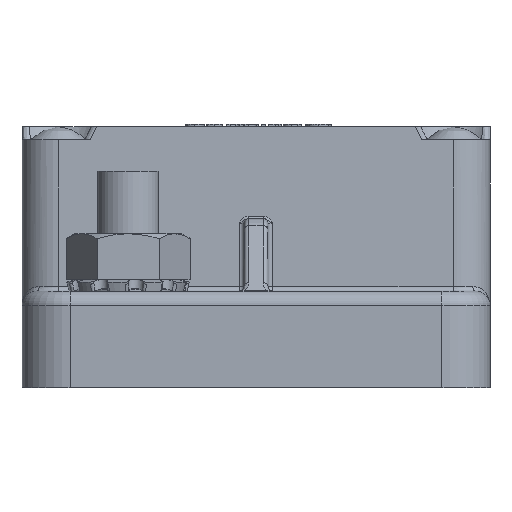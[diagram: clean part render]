
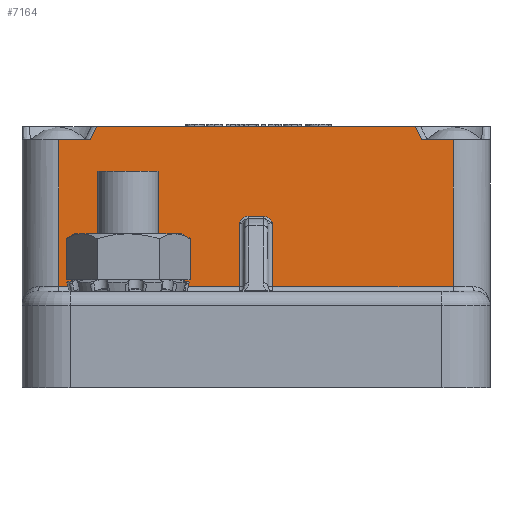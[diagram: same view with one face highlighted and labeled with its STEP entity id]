
A CAD part, left-side view. The second image highlights one B-rep face of the part: STEP entity #7164.
In plain terms, the highlighted planar face has unit normal (-1, 0, 0.024).
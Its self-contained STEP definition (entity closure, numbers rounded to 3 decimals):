
#485=B_SPLINE_CURVE_WITH_KNOTS('',3,(#12450,#12451,#12452,#12453,#12454,
#12455,#12456,#12457),.UNSPECIFIED.,.F.,.F.,(4,2,1,1,4),(-0.127,
-0.127,-0.076,-0.051,0.),
 .UNSPECIFIED.);
#486=B_SPLINE_CURVE_WITH_KNOTS('',3,(#12505,#12506,#12507,#12508,#12509,
#12510,#12511,#12512),.UNSPECIFIED.,.F.,.F.,(4,1,1,2,4),(-0.127,
-0.076,-0.051,0.,0.),
 .UNSPECIFIED.);
#488=B_SPLINE_CURVE_WITH_KNOTS('',3,(#12530,#12531,#12532,#12533),
 .UNSPECIFIED.,.F.,.F.,(4,4),(-0.169,-0.018),
 .UNSPECIFIED.);
#489=B_SPLINE_CURVE_WITH_KNOTS('',3,(#12535,#12536,#12537,#12538),
 .UNSPECIFIED.,.F.,.F.,(4,4),(-0.133,0.018),
 .UNSPECIFIED.);
#911=LINE('',#12039,#1403);
#960=LINE('',#12463,#1452);
#961=LINE('',#12523,#1453);
#962=LINE('',#12525,#1454);
#963=LINE('',#12527,#1455);
#964=LINE('',#12529,#1456);
#965=LINE('',#12540,#1457);
#966=LINE('',#12542,#1458);
#967=LINE('',#12544,#1459);
#968=LINE('',#12545,#1460);
#1403=VECTOR('',#8470,10.);
#1452=VECTOR('',#8681,10.);
#1453=VECTOR('',#8684,10.);
#1454=VECTOR('',#8685,10.);
#1455=VECTOR('',#8686,10.);
#1456=VECTOR('',#8687,10.);
#1457=VECTOR('',#8688,10.);
#1458=VECTOR('',#8689,10.);
#1459=VECTOR('',#8690,10.);
#1460=VECTOR('',#8691,10.);
#1943=FACE_OUTER_BOUND('',#2396,.T.);
#2396=EDGE_LOOP('',(#5600,#5601,#5602,#5603,#5604,#5605,#5606,#5607,#5608,
#5609,#5610,#5611,#5612,#5613));
#3128=VERTEX_POINT('',#11540);
#3142=VERTEX_POINT('',#11986);
#3214=VERTEX_POINT('',#12438);
#3216=VERTEX_POINT('',#12441);
#3217=VERTEX_POINT('',#12459);
#3219=VERTEX_POINT('',#12504);
#3220=VERTEX_POINT('',#12522);
#3221=VERTEX_POINT('',#12524);
#3222=VERTEX_POINT('',#12526);
#3223=VERTEX_POINT('',#12528);
#3224=VERTEX_POINT('',#12534);
#3225=VERTEX_POINT('',#12539);
#3226=VERTEX_POINT('',#12541);
#3227=VERTEX_POINT('',#12543);
#3964=EDGE_CURVE('',#3128,#3142,#911,.T.);
#4067=EDGE_CURVE('',#3216,#3214,#485,.T.);
#4070=EDGE_CURVE('',#3214,#3217,#960,.T.);
#4071=EDGE_CURVE('',#3217,#3219,#486,.T.);
#4073=EDGE_CURVE('',#3220,#3216,#961,.T.);
#4074=EDGE_CURVE('',#3221,#3220,#962,.T.);
#4075=EDGE_CURVE('',#3222,#3221,#963,.T.);
#4076=EDGE_CURVE('',#3222,#3223,#964,.T.);
#4077=EDGE_CURVE('',#3128,#3223,#488,.T.);
#4078=EDGE_CURVE('',#3224,#3142,#489,.T.);
#4079=EDGE_CURVE('',#3224,#3225,#965,.T.);
#4080=EDGE_CURVE('',#3226,#3225,#966,.T.);
#4081=EDGE_CURVE('',#3227,#3226,#967,.T.);
#4082=EDGE_CURVE('',#3219,#3227,#968,.T.);
#5600=ORIENTED_EDGE('',*,*,#4071,.F.);
#5601=ORIENTED_EDGE('',*,*,#4070,.F.);
#5602=ORIENTED_EDGE('',*,*,#4067,.F.);
#5603=ORIENTED_EDGE('',*,*,#4073,.F.);
#5604=ORIENTED_EDGE('',*,*,#4074,.F.);
#5605=ORIENTED_EDGE('',*,*,#4075,.F.);
#5606=ORIENTED_EDGE('',*,*,#4076,.T.);
#5607=ORIENTED_EDGE('',*,*,#4077,.F.);
#5608=ORIENTED_EDGE('',*,*,#3964,.T.);
#5609=ORIENTED_EDGE('',*,*,#4078,.F.);
#5610=ORIENTED_EDGE('',*,*,#4079,.T.);
#5611=ORIENTED_EDGE('',*,*,#4080,.F.);
#5612=ORIENTED_EDGE('',*,*,#4081,.F.);
#5613=ORIENTED_EDGE('',*,*,#4082,.F.);
#6925=PLANE('',#7663);
#7164=ADVANCED_FACE('',(#1943),#6925,.F.);
#7663=AXIS2_PLACEMENT_3D('',#12521,#8682,#8683);
#8470=DIRECTION('',(0.,1.,0.));
#8681=DIRECTION('',(0.,1.,0.));
#8682=DIRECTION('center_axis',(1.,0.,-0.024));
#8683=DIRECTION('ref_axis',(-0.024,0.,-1.));
#8684=DIRECTION('',(0.024,0.,1.));
#8685=DIRECTION('',(0.,1.,0.));
#8686=DIRECTION('',(-0.024,0.,-1.));
#8687=DIRECTION('',(0.,1.,0.));
#8688=DIRECTION('',(0.,1.,0.));
#8689=DIRECTION('',(0.024,0.,1.));
#8690=DIRECTION('',(0.,1.,0.));
#8691=DIRECTION('',(-0.024,0.,-1.));
#11540=CARTESIAN_POINT('',(23.437,7.726,23.149));
#11986=CARTESIAN_POINT('',(23.437,40.774,23.149));
#12039=CARTESIAN_POINT('',(23.437,48.5,23.149));
#12438=CARTESIAN_POINT('',(23.212,23.472,13.864));
#12441=CARTESIAN_POINT('',(23.195,22.509,13.133));
#12450=CARTESIAN_POINT('Ctrl Pts',(23.195,22.509,13.133));
#12451=CARTESIAN_POINT('Ctrl Pts',(23.195,22.509,13.133));
#12452=CARTESIAN_POINT('Ctrl Pts',(23.195,22.51,13.134));
#12453=CARTESIAN_POINT('Ctrl Pts',(23.198,22.594,13.281));
#12454=CARTESIAN_POINT('Ctrl Pts',(23.204,22.73,13.502));
#12455=CARTESIAN_POINT('Ctrl Pts',(23.21,23.051,13.78));
#12456=CARTESIAN_POINT('Ctrl Pts',(23.212,23.303,13.864));
#12457=CARTESIAN_POINT('Ctrl Pts',(23.212,23.472,13.864));
#12459=CARTESIAN_POINT('',(23.212,25.028,13.864));
#12463=CARTESIAN_POINT('',(23.212,12.125,13.864));
#12504=CARTESIAN_POINT('',(23.195,25.991,13.133));
#12505=CARTESIAN_POINT('Ctrl Pts',(23.212,25.028,13.864));
#12506=CARTESIAN_POINT('Ctrl Pts',(23.212,25.197,13.864));
#12507=CARTESIAN_POINT('Ctrl Pts',(23.21,25.449,13.78));
#12508=CARTESIAN_POINT('Ctrl Pts',(23.204,25.77,13.502));
#12509=CARTESIAN_POINT('Ctrl Pts',(23.198,25.905,13.281));
#12510=CARTESIAN_POINT('Ctrl Pts',(23.195,25.99,13.134));
#12511=CARTESIAN_POINT('Ctrl Pts',(23.195,25.991,13.133));
#12512=CARTESIAN_POINT('Ctrl Pts',(23.195,25.991,13.133));
#12521=CARTESIAN_POINT('Origin',(23.024,0.,6.1));
#12522=CARTESIAN_POINT('',(23.036,22.509,6.588));
#12523=CARTESIAN_POINT('',(23.058,22.509,7.5));
#12524=CARTESIAN_POINT('',(23.036,3.826,6.588));
#12525=CARTESIAN_POINT('',(23.036,12.125,6.588));
#12526=CARTESIAN_POINT('',(23.405,3.826,21.799));
#12527=CARTESIAN_POINT('',(22.944,3.826,2.773));
#12528=CARTESIAN_POINT('',(23.405,7.054,21.799));
#12529=CARTESIAN_POINT('',(23.405,1.875,21.799));
#12530=CARTESIAN_POINT('Ctrl Pts',(23.437,7.726,23.149));
#12531=CARTESIAN_POINT('Ctrl Pts',(23.426,7.509,22.695));
#12532=CARTESIAN_POINT('Ctrl Pts',(23.415,7.287,22.244));
#12533=CARTESIAN_POINT('Ctrl Pts',(23.405,7.054,21.798));
#12534=CARTESIAN_POINT('',(23.405,41.446,21.799));
#12535=CARTESIAN_POINT('Ctrl Pts',(23.405,41.446,21.798));
#12536=CARTESIAN_POINT('Ctrl Pts',(23.415,41.213,22.244));
#12537=CARTESIAN_POINT('Ctrl Pts',(23.426,40.991,22.695));
#12538=CARTESIAN_POINT('Ctrl Pts',(23.437,40.774,23.149));
#12539=CARTESIAN_POINT('',(23.405,44.674,21.799));
#12540=CARTESIAN_POINT('',(23.405,22.375,21.799));
#12541=CARTESIAN_POINT('',(23.036,44.674,6.588));
#12542=CARTESIAN_POINT('',(22.969,44.674,3.814));
#12543=CARTESIAN_POINT('',(23.036,25.991,6.588));
#12544=CARTESIAN_POINT('',(23.036,12.125,6.588));
#12545=CARTESIAN_POINT('',(23.058,25.991,7.5));
